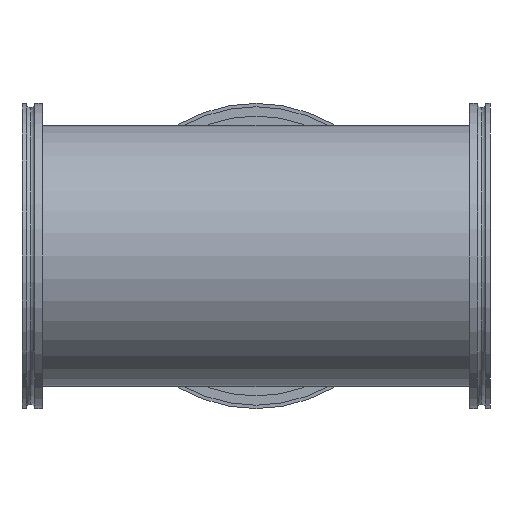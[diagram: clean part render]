
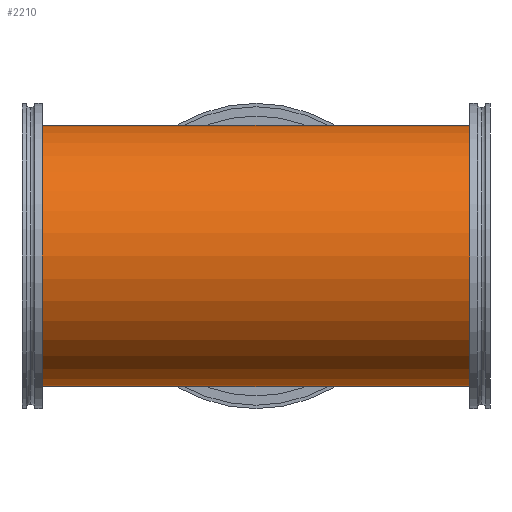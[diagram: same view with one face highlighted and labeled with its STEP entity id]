
A CAD part, left-side view. The second image highlights one B-rep face of the part: STEP entity #2210.
In plain terms, the highlighted cylindrical face has radius 77 mm (diameter 154 mm), a partial arc.
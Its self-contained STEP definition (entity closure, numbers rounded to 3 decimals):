
#56 = CIRCLE ( 'NONE', #1602, 77. ) ;
#63 = CARTESIAN_POINT ( 'NONE',  ( 0., -0.002, 0. ) ) ;
#66 = CARTESIAN_POINT ( 'NONE',  ( 0., 138., -77. ) ) ;
#79 = VERTEX_POINT ( 'NONE', #66 ) ;
#83 = CARTESIAN_POINT ( 'NONE',  ( 0., 8., 0. ) ) ;
#98 = AXIS2_PLACEMENT_3D ( 'NONE', #63, #631, #1193 ) ;
#107 = CARTESIAN_POINT ( 'NONE',  ( 0., 8., -77. ) ) ;
#114 = DIRECTION ( 'NONE',  ( 0., -1., 0. ) ) ;
#122 = DIRECTION ( 'NONE',  ( 0., 0., -1. ) ) ;
#159 = EDGE_CURVE ( 'NONE', #1938, #79, #299, .T. ) ;
#164 = DIRECTION ( 'NONE',  ( 0., 1., 0. ) ) ;
#169 = CIRCLE ( 'NONE', #979, 77. ) ;
#299 = LINE ( 'NONE', #1494, #813 ) ;
#357 = ORIENTED_EDGE ( 'NONE', *, *, #1036, .T. ) ;
#359 = LINE ( 'NONE', #1126, #2488 ) ;
#387 = EDGE_LOOP ( 'NONE', ( #980, #1841, #920, #357, #877, #1336 ) ) ;
#428 = CARTESIAN_POINT ( 'NONE',  ( 0., 268., 77. ) ) ;
#518 = EDGE_CURVE ( 'NONE', #1496, #2140, #169, .T. ) ;
#631 = DIRECTION ( 'NONE',  ( 0., 1., 0. ) ) ;
#668 = VERTEX_POINT ( 'NONE', #1548 ) ;
#675 = DIRECTION ( 'NONE',  ( 0., 1., 0. ) ) ;
#813 = VECTOR ( 'NONE', #1115, 1000. ) ;
#877 = ORIENTED_EDGE ( 'NONE', *, *, #518, .T. ) ;
#920 = ORIENTED_EDGE ( 'NONE', *, *, #1720, .T. ) ;
#951 = EDGE_CURVE ( 'NONE', #1150, #1938, #56, .T. ) ;
#979 = AXIS2_PLACEMENT_3D ( 'NONE', #2059, #114, #1640 ) ;
#980 = ORIENTED_EDGE ( 'NONE', *, *, #159, .F. ) ;
#1036 = EDGE_CURVE ( 'NONE', #668, #1496, #1062, .T. ) ;
#1062 = LINE ( 'NONE', #2423, #2112 ) ;
#1115 = DIRECTION ( 'NONE',  ( 0., 1., 0. ) ) ;
#1126 = CARTESIAN_POINT ( 'NONE',  ( 0., -0.002, -77. ) ) ;
#1150 = VERTEX_POINT ( 'NONE', #1715 ) ;
#1193 = DIRECTION ( 'NONE',  ( 0., 0., 1. ) ) ;
#1324 = CARTESIAN_POINT ( 'NONE',  ( 0., 268., -77. ) ) ;
#1336 = ORIENTED_EDGE ( 'NONE', *, *, #2151, .F. ) ;
#1494 = CARTESIAN_POINT ( 'NONE',  ( 0., -0.002, -77. ) ) ;
#1496 = VERTEX_POINT ( 'NONE', #428 ) ;
#1548 = CARTESIAN_POINT ( 'NONE',  ( 0., 138., 77. ) ) ;
#1591 = CYLINDRICAL_SURFACE ( 'NONE', #98, 77. ) ;
#1602 = AXIS2_PLACEMENT_3D ( 'NONE', #83, #1659, #122 ) ;
#1640 = DIRECTION ( 'NONE',  ( 0., 0., -1. ) ) ;
#1659 = DIRECTION ( 'NONE',  ( 0., -1., 0. ) ) ;
#1715 = CARTESIAN_POINT ( 'NONE',  ( 0., 8., 77. ) ) ;
#1720 = EDGE_CURVE ( 'NONE', #1150, #668, #2502, .T. ) ;
#1841 = ORIENTED_EDGE ( 'NONE', *, *, #951, .F. ) ;
#1871 = DIRECTION ( 'NONE',  ( 0., 1., 0. ) ) ;
#1938 = VERTEX_POINT ( 'NONE', #107 ) ;
#2059 = CARTESIAN_POINT ( 'NONE',  ( 0., 268., 0. ) ) ;
#2112 = VECTOR ( 'NONE', #675, 1000. ) ;
#2140 = VERTEX_POINT ( 'NONE', #1324 ) ;
#2151 = EDGE_CURVE ( 'NONE', #79, #2140, #359, .T. ) ;
#2197 = FACE_OUTER_BOUND ( 'NONE', #387, .T. ) ;
#2210 = ADVANCED_FACE ( 'NONE', ( #2197 ), #1591, .T. ) ;
#2243 = VECTOR ( 'NONE', #1871, 1000. ) ;
#2423 = CARTESIAN_POINT ( 'NONE',  ( 0., -0.002, 77. ) ) ;
#2485 = CARTESIAN_POINT ( 'NONE',  ( 0., -0.002, 77. ) ) ;
#2488 = VECTOR ( 'NONE', #164, 1000. ) ;
#2502 = LINE ( 'NONE', #2485, #2243 ) ;
